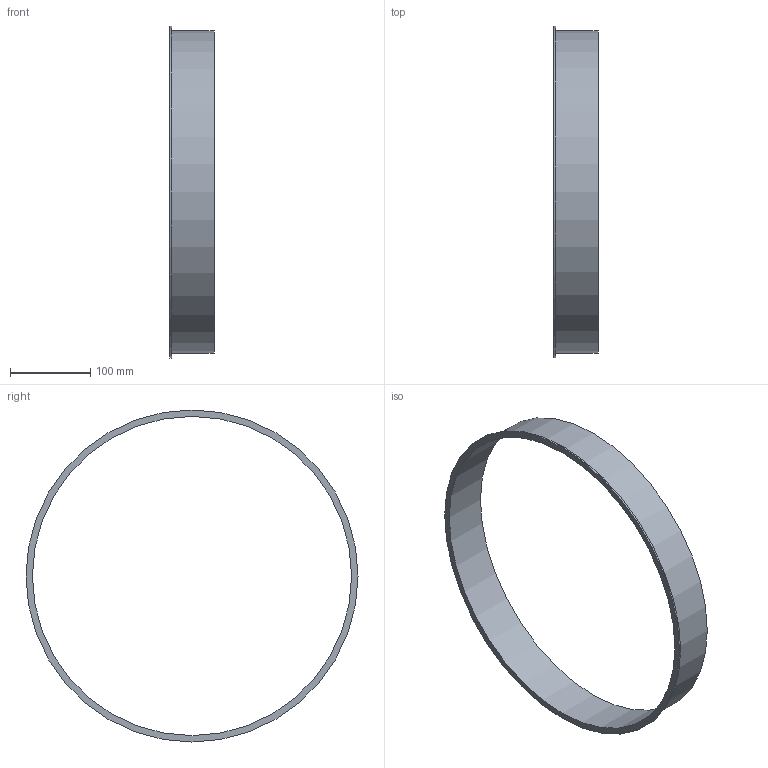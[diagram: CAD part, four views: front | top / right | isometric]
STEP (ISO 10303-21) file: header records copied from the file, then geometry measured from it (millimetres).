
FILE_DESCRIPTION((''),'2;1');
FILE_NAME('U:\Wolfgang\Marcel-3D\fertig\Kapitel 1\4021012.stp','2010-05-31T12:34:32',('TK2'),(''),'Autodesk Inventor 2010','Autodesk Inventor 2010','');
FILE_SCHEMA(('AUTOMOTIVE_DESIGN { 1 0 10303 214 1 1 1 1 }'));
Length unit declared in the file: millimetre
Products named in the file (1): 4021012
Bounding box: 55 x 414 x 414 mm (x, y, z)
Volume: 153611.3 mm3; surface area: 158713.3 mm2
Topology: 1 solids, 1 shells, 6 faces, 9 edges, 6 vertices
Faces by surface type: cylinder 3, plane 3
Full cylindrical faces by diameter (mm): 398 x1, 402 x1, 414 x1
Entity records: 154 total; most frequent: DIRECTION 26, CARTESIAN_POINT 19, AXIS2_PLACEMENT_3D 13, ORIENTED_EDGE 12, EDGE_LOOP 12, VERTEX_POINT 6, CIRCLE 6, EDGE_CURVE 6
